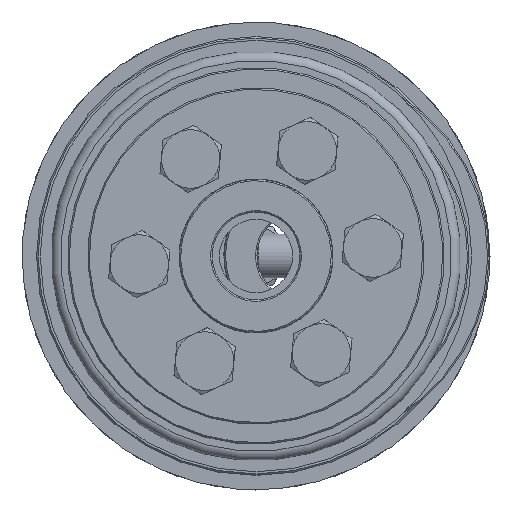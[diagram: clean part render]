
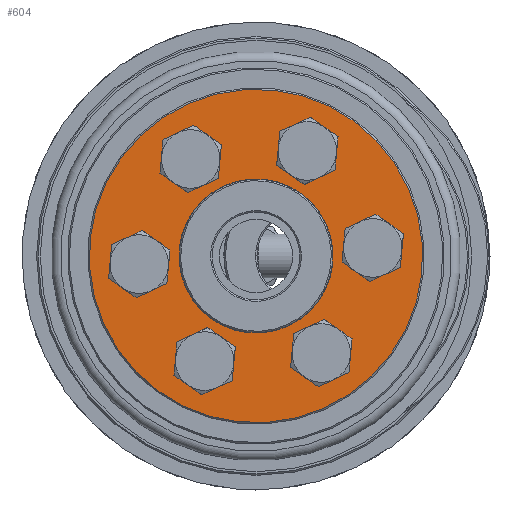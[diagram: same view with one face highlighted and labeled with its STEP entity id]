
A CAD part, left-side view. The second image highlights one B-rep face of the part: STEP entity #604.
In plain terms, the highlighted planar face has unit normal (-1, 0, 0).
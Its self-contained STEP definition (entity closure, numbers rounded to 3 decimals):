
#604 = ADVANCED_FACE( 'NONE', ( #1048, #1049, #1050, #1051, #1052, #1053, #1054, #1055 ), #1056, .F. );
#1048 = FACE_OUTER_BOUND( '', #1557, .T. );
#1049 = FACE_BOUND( '', #1558, .T. );
#1050 = FACE_BOUND( '', #1559, .T. );
#1051 = FACE_BOUND( '', #1560, .T. );
#1052 = FACE_BOUND( '', #1561, .T. );
#1053 = FACE_BOUND( '', #1562, .T. );
#1054 = FACE_BOUND( '', #1563, .T. );
#1055 = FACE_BOUND( '', #1564, .T. );
#1056 = PLANE( '', #1565 );
#1557 = EDGE_LOOP( '', ( #2280 ) );
#1558 = EDGE_LOOP( '', ( #2281 ) );
#1559 = EDGE_LOOP( '', ( #2282 ) );
#1560 = EDGE_LOOP( '', ( #2283 ) );
#1561 = EDGE_LOOP( '', ( #2284 ) );
#1562 = EDGE_LOOP( '', ( #2285 ) );
#1563 = EDGE_LOOP( '', ( #2286 ) );
#1564 = EDGE_LOOP( '', ( #2287 ) );
#1565 = AXIS2_PLACEMENT_3D( '', #2288, #2289, #2290 );
#2280 = ORIENTED_EDGE( '', *, *, #3164, .T. );
#2281 = ORIENTED_EDGE( '', *, *, #3165, .T. );
#2282 = ORIENTED_EDGE( '', *, *, #3166, .T. );
#2283 = ORIENTED_EDGE( '', *, *, #3162, .T. );
#2284 = ORIENTED_EDGE( '', *, *, #3167, .T. );
#2285 = ORIENTED_EDGE( '', *, *, #3168, .T. );
#2286 = ORIENTED_EDGE( '', *, *, #3169, .T. );
#2287 = ORIENTED_EDGE( '', *, *, #3170, .F. );
#2288 = CARTESIAN_POINT( '', ( 0., 10.5, 0. ) );
#2289 = DIRECTION( '', ( 1., 0., 0. ) );
#2290 = DIRECTION( '', ( 0., 1., 0. ) );
#3162 = EDGE_CURVE( 'NONE', #3478, #3478, #3479, .T. );
#3164 = EDGE_CURVE( 'NONE', #3482, #3482, #3483, .T. );
#3165 = EDGE_CURVE( 'NONE', #3484, #3484, #3485, .T. );
#3166 = EDGE_CURVE( 'NONE', #3486, #3486, #3487, .T. );
#3167 = EDGE_CURVE( 'NONE', #3488, #3488, #3489, .T. );
#3168 = EDGE_CURVE( 'NONE', #3490, #3490, #3491, .T. );
#3169 = EDGE_CURVE( 'NONE', #3492, #3492, #3493, .T. );
#3170 = EDGE_CURVE( 'NONE', #3494, #3494, #3495, .T. );
#3478 = VERTEX_POINT( '', #3886 );
#3479 = CIRCLE( '', #3887, 2.75 );
#3482 = VERTEX_POINT( '', #3890 );
#3483 = CIRCLE( '', #3891, 22.8 );
#3484 = VERTEX_POINT( '', #3892 );
#3485 = CIRCLE( '', #3893, 2.75 );
#3486 = VERTEX_POINT( '', #3894 );
#3487 = CIRCLE( '', #3895, 2.75 );
#3488 = VERTEX_POINT( '', #3896 );
#3489 = CIRCLE( '', #3897, 2.75 );
#3490 = VERTEX_POINT( '', #3898 );
#3491 = CIRCLE( '', #3899, 2.75 );
#3492 = VERTEX_POINT( '', #3900 );
#3493 = CIRCLE( '', #3901, 2.75 );
#3494 = VERTEX_POINT( '', #3902 );
#3495 = CIRCLE( '', #3903, 10.5 );
#3886 = CARTESIAN_POINT( '', ( 0., -16., -2.75 ) );
#3887 = AXIS2_PLACEMENT_3D( '', #4536, #4537, #4538 );
#3890 = CARTESIAN_POINT( '', ( 0., 0., -22.8 ) );
#3891 = AXIS2_PLACEMENT_3D( '', #4542, #4543, #4544 );
#3892 = CARTESIAN_POINT( '', ( 0., 8., 11.106 ) );
#3893 = AXIS2_PLACEMENT_3D( '', #4545, #4546, #4547 );
#3894 = CARTESIAN_POINT( '', ( 0., -8., 11.106 ) );
#3895 = AXIS2_PLACEMENT_3D( '', #4548, #4549, #4550 );
#3896 = CARTESIAN_POINT( '', ( 0., -8., -16.606 ) );
#3897 = AXIS2_PLACEMENT_3D( '', #4551, #4552, #4553 );
#3898 = CARTESIAN_POINT( '', ( 0., 8., -16.606 ) );
#3899 = AXIS2_PLACEMENT_3D( '', #4554, #4555, #4556 );
#3900 = CARTESIAN_POINT( '', ( 0., 16., -2.75 ) );
#3901 = AXIS2_PLACEMENT_3D( '', #4557, #4558, #4559 );
#3902 = CARTESIAN_POINT( '', ( 0., 0., 10.5 ) );
#3903 = AXIS2_PLACEMENT_3D( '', #4560, #4561, #4562 );
#4536 = CARTESIAN_POINT( '', ( 0., -16., 0. ) );
#4537 = DIRECTION( '', ( 1., 0., 0. ) );
#4538 = DIRECTION( '', ( 0., 0., -1. ) );
#4542 = CARTESIAN_POINT( '', ( 0., 0., 0. ) );
#4543 = DIRECTION( '', ( -1., 0., 0. ) );
#4544 = DIRECTION( '', ( 0., 0., -1. ) );
#4545 = CARTESIAN_POINT( '', ( 0., 8., 13.856 ) );
#4546 = DIRECTION( '', ( 1., 0., 0. ) );
#4547 = DIRECTION( '', ( 0., 0., -1. ) );
#4548 = CARTESIAN_POINT( '', ( 0., -8., 13.856 ) );
#4549 = DIRECTION( '', ( 1., 0., 0. ) );
#4550 = DIRECTION( '', ( 0., 0., -1. ) );
#4551 = CARTESIAN_POINT( '', ( 0., -8., -13.856 ) );
#4552 = DIRECTION( '', ( 1., 0., 0. ) );
#4553 = DIRECTION( '', ( 0., 0., -1. ) );
#4554 = CARTESIAN_POINT( '', ( 0., 8., -13.856 ) );
#4555 = DIRECTION( '', ( 1., 0., 0. ) );
#4556 = DIRECTION( '', ( 0., 0., -1. ) );
#4557 = CARTESIAN_POINT( '', ( 0., 16., 0. ) );
#4558 = DIRECTION( '', ( 1., 0., 0. ) );
#4559 = DIRECTION( '', ( 0., 0., -1. ) );
#4560 = CARTESIAN_POINT( '', ( 0., 0., 0. ) );
#4561 = DIRECTION( '', ( -1., 0., 0. ) );
#4562 = DIRECTION( '', ( 0., 0., 1. ) );
